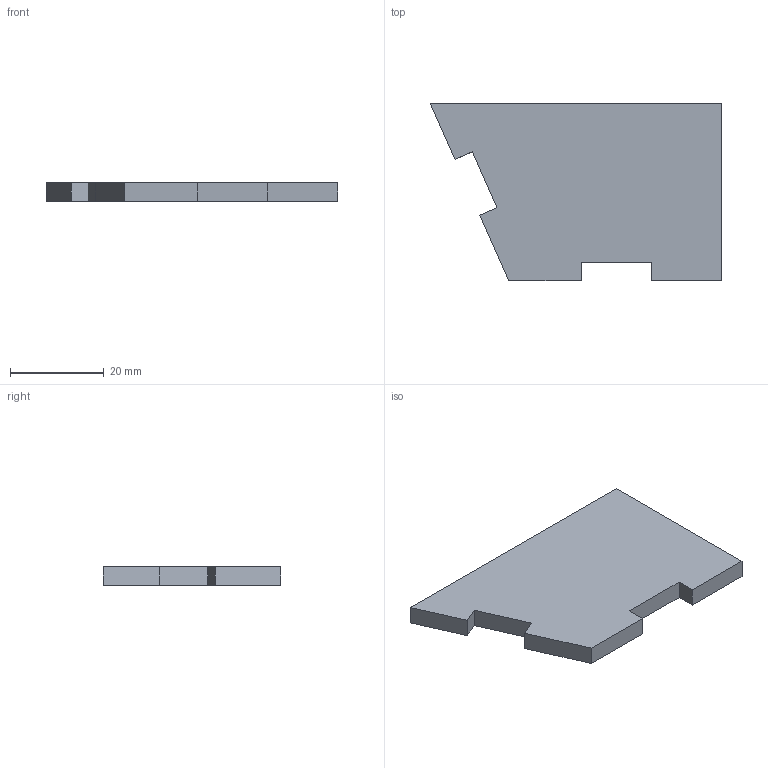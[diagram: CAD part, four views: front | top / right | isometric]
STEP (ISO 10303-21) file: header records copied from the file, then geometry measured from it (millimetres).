
FILE_DESCRIPTION(('STEP AP214'),'1');
FILE_NAME('tmp0.step','2025-05-02T09:05:23',(' '),(' '),'Spatial InterOp 3D',' ',' ');
FILE_SCHEMA(('AUTOMOTIVE_DESIGN { 1 0 10303 214 1 1 1 1 }'));
Length unit declared in the file: millimetre
Products named in the file (1): Thickness Data
Bounding box: 62.25 x 38 x 4 mm (x, y, z)
Volume: 7739.2 mm3; surface area: 4682.7 mm2
Topology: 1 solids, 1 shells, 14 faces, 36 edges, 24 vertices
Faces by surface type: plane 14
Entity records: 445 total; most frequent: CARTESIAN_POINT 75, ORIENTED_EDGE 72, DIRECTION 66, EDGE_CURVE 36, LINE 36, VECTOR 36, VERTEX_POINT 24, AXIS2_PLACEMENT_3D 15
